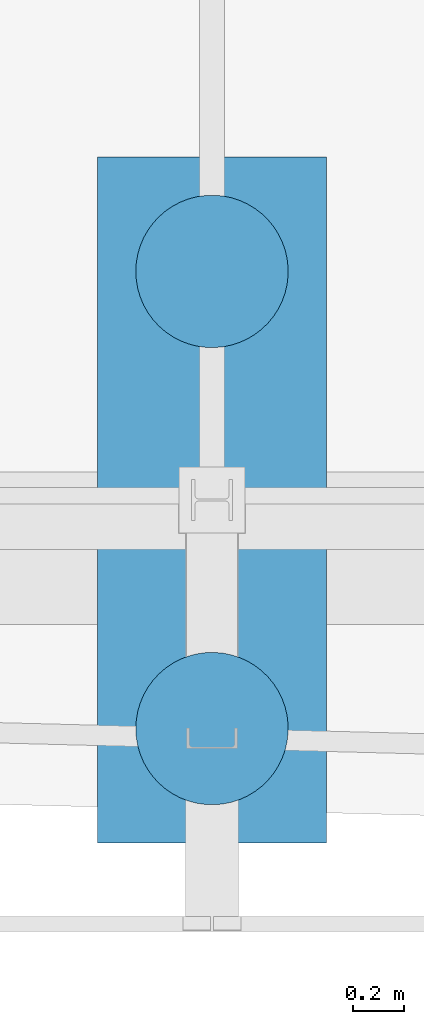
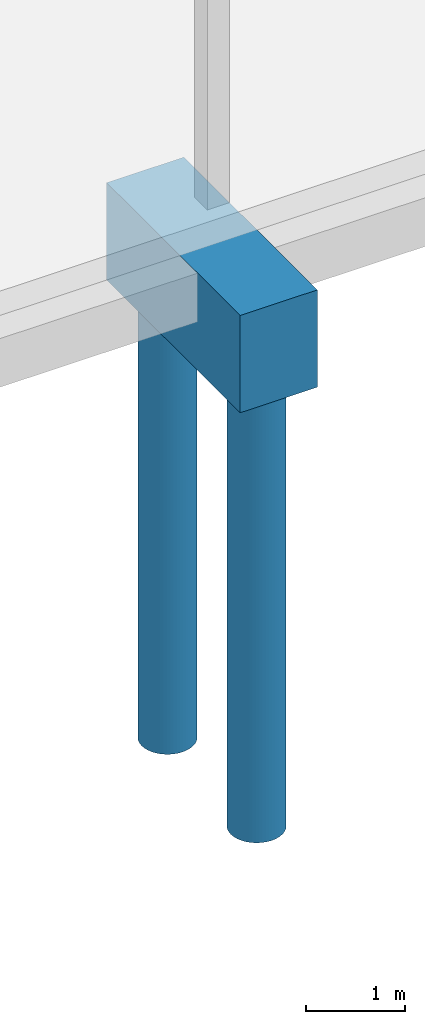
# One storey, part 8 of 82: 3 columns.
"""IFC2X3 building model written with IfcOpenShell, lengths in millimetres."""

from ifc_helpers import new_model, si_unit, frame, frame_2d, origin_with_axes, place, context, subcontext, project, spatial, rectangle, circle, extrude, material, type_object, element, save


model = new_model("IFC2X3")

# Units and contexts
model_context = context("Model", 3, precision=1e-05, world=origin_with_axes())
body_context = subcontext(model_context, "Body", "Model", "MODEL_VIEW")
ifc_project = project(units=[si_unit("LENGTHUNIT", "METRE", prefix="MILLI"), si_unit("AREAUNIT", "SQUARE_METRE"), si_unit("VOLUMEUNIT", "CUBIC_METRE"), si_unit("MASSUNIT", "GRAM", prefix="KILO"), si_unit("TIMEUNIT", "SECOND"), si_unit("PLANEANGLEUNIT", "RADIAN"), si_unit("SOLIDANGLEUNIT", "STERADIAN"), si_unit("THERMODYNAMICTEMPERATUREUNIT", "DEGREE_CELSIUS"), si_unit("LUMINOUSINTENSITYUNIT", "LUMEN")], contexts=[model_context])

# Site, building, storey
site_placement = place(None, origin_with_axes())
site = spatial("IfcSite", under=ifc_project, at=site_placement, Name="Undefined", CompositionType="ELEMENT")
building_placement = place(site_placement, origin_with_axes())
building = spatial("IfcBuilding", under=site, at=building_placement, Name="Undefined", CompositionType="ELEMENT")
storey_placement = place(building_placement, origin_with_axes())
storey = spatial("IfcBuildingStorey", under=building, at=storey_placement, Name="Undefined", CompositionType="ELEMENT", Elevation=0.0)

# Columns
ifc_material_1 = material(Name="CONCRETE/C30/37")
column_type_1 = type_object("IfcColumnType", Name="2700*900", PredefinedType="NOTDEFINED")
column_placement = place(storey_placement, frame((14625.0000000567, -6.40534096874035e-08, -1650.0), z_axis=(0.0, 0.0, 1.0), x_axis=(1.0, 0.0, 0.0)))
element("IfcColumn", 1, at=column_placement, inside=storey, type_object=column_type_1, material=ifc_material_1, Name="SEMELLE", ObjectType="2700*900", context=body_context, shape_type="SweptSolid", body=[
    extrude(rectangle(XDim=900.0, YDim=2700.0, at=frame_2d((5.17284206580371e-08, 4.49290382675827e-10), x_axis=(1.0, 0.0))), frame((0.0, 0.0, 1200.0), z_axis=(0.0, -6.50000002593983e-08, -0.999999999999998), x_axis=(-1.0, 0.0, 0.0)), (0.0, 0.0, 1.0), 1200.0),
])
ifc_material_2 = material(Name="CONCRETE/C25/30")
column_type_2 = type_object("IfcColumnType", Name="D600", PredefinedType="NOTDEFINED")
for number, where, z_axis, x_axis in (
    (2, (14625.0000000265, -900.000000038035, -7175.0), (0.0, 0.0, 1.0), (1.0, 0.0, 0.0)),
    (3, (14625.0000000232, 899.999999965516, -7175.0), (0.0, 0.0, 1.0), (1.0, 0.0, 0.0)),
):
    element("IfcColumn", number, at=place(storey_placement, frame(where, z_axis=z_axis, x_axis=x_axis)), inside=storey, type_object=column_type_2, material=ifc_material_2, Name="PIEU", ObjectType="D600", context=body_context, shape_type="SweptSolid", body=[
        extrude(circle(Radius=300.0, at=frame_2d((5.17284206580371e-08, 4.49290382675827e-10), x_axis=(1.0, 0.0))), frame((0.0, 0.0, 5750.0), z_axis=(0.0, -6.50000002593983e-08, -0.999999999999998), x_axis=(-1.0, 0.0, 0.0)), (0.0, 0.0, 1.0), 5750.0),
    ])

save(model, "model.ifc")
